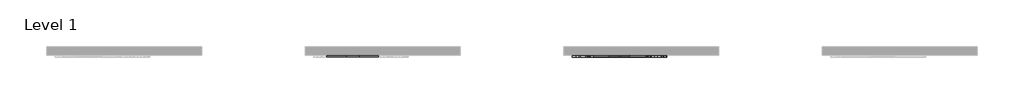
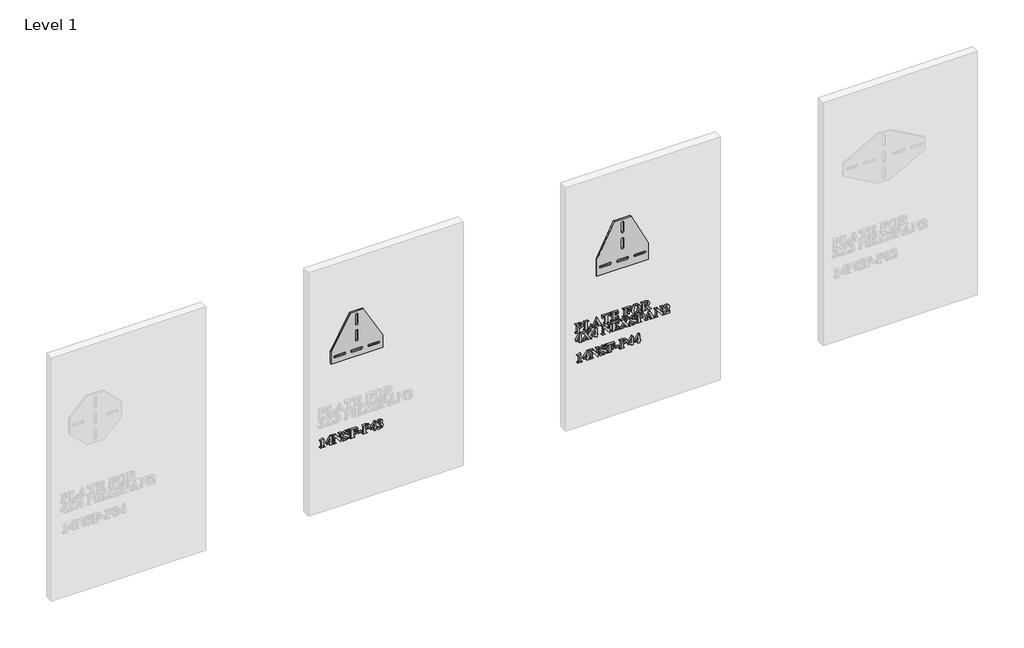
# One storey, part 18 of 21: 5 proxies.
"""IFC4 building model written with IfcOpenShell, lengths in millimetres."""

from ifc_helpers import new_model, si_unit, frame, origin, place, context, project, spatial, polyline, outline, extrude, transform, mapped, element, save
from components import generic_models_60e1e1ff, generic_models_8d3629b8

model = new_model("IFC4")

# Units and contexts
model_context = context("Model", 3, world=origin())
ifc_project = project(units=[si_unit("LENGTHUNIT", "METRE", prefix="MILLI")], contexts=[model_context])

# Site, building, storey
site = spatial("IfcSite", under=ifc_project)
building = spatial("IfcBuilding", under=site)
storey = spatial("IfcBuildingStorey", under=building, Name="Level 1", Elevation=0.0)

# Proxies
placement = place(None, origin())
element("IfcBuildingElementProxy", 1, Name="2\"\" Arial", ObjectType="2\"\" Arial", at=placement, inside=storey, context=model_context, shape_type="SweptSolid", body=[
    extrude(outline(polyline([(463.8692305, 29886.9409375), (455.0050049, 29867.1834097), (453.2321598, 29867.8482267), (454.4648412, 29872.4049926), (453.827725, 29874.4825455), (452.3111114, 29875.7152269), (447.9136245, 29876.0476353), (421.3209478, 29876.0476353), (415.2544934, 29875.5282471), (413.2046413, 29873.5407215), (412.4567222, 29867.1834097), (410.6838771, 29867.1834097), (410.6838771, 29895.5489316), (412.4567222, 29894.3162502), (413.273893, 29889.8425863), (415.3791466, 29888.0074146), (421.3209478, 29887.5711285), (463.8692305, 29886.9409375)])), frame((0.0, -15490.3579358, 0.0), z_axis=(0.0, 1.0, 0.0), x_axis=(0.0, 0.0, 1.0)), (0.0, 0.0, 1.0), 12.7),
    extrude(outline(polyline([(430.1851733, 29904.4131571), (422.2073703, 29904.4131571), (422.2073703, 29923.0280308), (410.6838771, 29923.0280308), (410.6838771, 29934.551524), (422.2073703, 29934.551524), (422.2073703, 29938.9836368), (430.1851733, 29938.9836368), (430.1851733, 29934.551524), (463.8692305, 29934.551524), (463.8692305, 29929.440744), (430.1851733, 29904.4131571)]), holes=[polyline([(430.1851733, 29907.1001255), (451.6116686, 29923.0280308), (430.1851733, 29923.0280308), (430.1851733, 29907.1001255)])]), frame((0.0, -15490.3579358, 0.0), z_axis=(0.0, 1.0, 0.0), x_axis=(0.0, 0.0, 1.0)), (0.0, 0.0, 1.0), 12.7),
    extrude(outline(polyline([(462.9828079, 29961.6151127), (462.9828079, 29943.194144), (461.2099628, 29943.194144), (460.6074725, 29946.8575622), (457.4565173, 29950.50713), (419.5481027, 29950.50713), (414.097989, 29948.9489654), (412.4567222, 29943.4157496), (410.6838771, 29943.4157496), (410.6838771, 29961.1442007), (412.4567222, 29960.0500229), (413.9179344, 29955.8741416), (419.5481027, 29954.0528203), (452.9551528, 29954.0528203), (409.7974546, 29987.8753809), (409.7974546, 29989.5097225), (452.3457373, 29989.5097225), (457.7820006, 29990.1676143), (460.0673087, 29992.002786), (461.2099628, 29996.601103), (462.9828079, 29996.601103), (462.9828079, 29978.8726518), (461.2099628, 29978.8726518), (458.9662057, 29984.7036502), (452.3457373, 29985.9640323), (431.9164674, 29985.9640323), (462.9828079, 29961.6151127)])), frame((0.0, -15490.3579358, 0.0), z_axis=(0.0, 1.0, 0.0), x_axis=(0.0, 0.0, 1.0)), (0.0, 0.0, 1.0), 12.7),
    extrude(outline(polyline([(463.8692305, 30037.3765406), (463.8692305, 30035.6036955), (460.9329558, 30034.4956673), (460.3235403, 30032.8613257), (461.5631468, 30029.100955), (463.259815, 30024.5511142), (463.8692305, 30019.4680349), (459.5409954, 30007.5359562), (449.0493534, 30002.8060609), (442.4427353, 30004.4404025), (437.0064719, 30009.1218216), (431.0992966, 30019.9666475), (427.0549937, 30027.7228449), (423.7863105, 30030.9846029), (420.2267699, 30032.0580052), (414.7905066, 30029.3918124), (412.4567222, 30022.224255), (416.771107, 30011.3725039), (429.2987508, 30004.578906), (429.2987508, 30002.8060609), (409.7974546, 30002.8060609), (409.7974546, 30004.578906), (412.4705726, 30006.4002273), (413.3431448, 30008.5401068), (412.4844229, 30011.6010347), (410.3583938, 30017.1481008), (409.7974546, 30021.8364451), (414.4788737, 30034.8973275), (425.6699585, 30040.0358082), (434.76964, 30037.4180916), (443.218355, 30024.7311688), (447.7058692, 30015.5899362), (451.2654098, 30011.6702864), (454.3263377, 30010.7838639), (459.1254848, 30013.2076756), (461.2099628, 30019.786593), (457.0756326, 30029.8003978), (446.1407794, 30035.6036955), (446.1407794, 30037.3765406), (463.8692305, 30037.3765406)])), frame((0.0, -15490.3579358, 0.0), z_axis=(0.0, 1.0, 0.0), x_axis=(0.0, 0.0, 1.0)), (0.0, 0.0, 1.0), 12.7),
    extrude(outline(polyline([(459.4371177, 30063.9692173), (459.4371177, 30068.40133), (458.8415526, 30076.9608478), (455.1296581, 30083.373561), (447.0272019, 30086.1297812), (447.0272019, 30087.9026263), (462.9828079, 30087.9026263), (462.9828079, 30044.467921), (461.2099628, 30044.467921), (461.2099628, 30046.1438137), (460.5035948, 30049.495599), (458.8484777, 30051.1507161), (454.1185824, 30051.5593015), (419.5481027, 30051.5593015), (414.963636, 30051.1576412), (413.2184916, 30049.6618032), (412.4567222, 30046.1438137), (412.4567222, 30044.467921), (410.6838771, 30044.467921), (410.6838771, 30071.0605977), (412.4567222, 30071.0605977), (412.4567222, 30069.3985554), (413.1630902, 30066.0536953), (414.8182073, 30064.391653), (419.5481027, 30063.9692173), (435.5037087, 30063.9692173), (435.5037087, 30065.7420624), (433.0868222, 30072.6533882), (423.0937929, 30076.379133), (423.0937929, 30078.1519782), (451.4593147, 30078.1519782), (451.4593147, 30076.379133), (444.0770768, 30074.5231858), (440.1989782, 30071.0398222), (439.0493989, 30065.7420624), (439.0493989, 30063.9692173), (459.4371177, 30063.9692173)])), frame((0.0, -15490.3579358, 0.0), z_axis=(0.0, 1.0, 0.0), x_axis=(0.0, 0.0, 1.0)), (0.0, 0.0, 1.0), 12.7),
    extrude(outline(polyline([(30113.6088804, -15490.3579358), (30091.4483165, -15490.3579358), (30091.4483165, -15477.6579358), (30113.6088804, -15477.6579358), (30113.6088804, -15490.3579358)])), frame((0.0, 0.0, 424.866638), z_axis=(0.0, 0.0, 1.0), x_axis=(1.0, 0.0, 0.0)), (0.0, 0.0, 1.0), 7.977803),
    extrude(outline(polyline([(434.6172861, 30137.5422894), (435.5314094, 30150.7970767), (440.427509, 30159.9313842), (449.0632037, 30163.2485436), (459.0077568, 30158.2000901), (462.9828079, 30141.5450413), (462.9828079, 30118.0409932), (461.2099628, 30118.0409932), (460.6074725, 30122.82629), (459.0008316, 30124.6199106), (454.1185824, 30125.1323736), (419.5481027, 30125.1323736), (414.6797038, 30124.6199106), (413.0730629, 30122.8470655), (412.4567222, 30118.0409932), (410.6838771, 30118.0409932), (410.6838771, 30144.6336699), (412.4567222, 30144.6336699), (413.0592126, 30139.8622235), (414.6658534, 30138.0547525), (419.5481027, 30137.5422894), (434.6172861, 30137.5422894)]), holes=[polyline([(460.3235403, 30137.5422894), (460.3235403, 30139.3289849), (457.5673201, 30147.9508293), (448.8831491, 30150.8386278), (440.0466243, 30147.9508293), (437.1934517, 30139.7306451), (437.2765538, 30137.5422894), (460.3235403, 30137.5422894)])]), frame((0.0, -15490.3579358, 0.0), z_axis=(0.0, 1.0, 0.0), x_axis=(0.0, 0.0, 1.0)), (0.0, 0.0, 1.0), 12.7),
    extrude(outline(polyline([(430.1851733, 30166.7942338), (422.2073703, 30166.7942338), (422.2073703, 30185.4091075), (410.6838771, 30185.4091075), (410.6838771, 30196.9326007), (422.2073703, 30196.9326007), (422.2073703, 30201.3647135), (430.1851733, 30201.3647135), (430.1851733, 30196.9326007), (463.8692305, 30196.9326007), (463.8692305, 30191.8218207), (430.1851733, 30166.7942338)]), holes=[polyline([(430.1851733, 30169.4812022), (451.6116686, 30185.4091075), (430.1851733, 30185.4091075), (430.1851733, 30169.4812022)])]), frame((0.0, -15490.3579358, 0.0), z_axis=(0.0, 1.0, 0.0), x_axis=(0.0, 0.0, 1.0)), (0.0, 0.0, 1.0), 12.7),
    extrude(outline(polyline([(439.0493989, 30214.6610518), (432.8790669, 30226.5515794), (423.1214936, 30230.6166578), (417.3805225, 30228.5114043), (415.1159899, 30223.469876), (418.2323192, 30216.2122913), (421.6533562, 30211.7109268), (422.2073703, 30209.245564), (420.7184575, 30206.219262), (417.124291, 30204.9104037), (412.4013208, 30207.1680112), (409.7974546, 30217.1125642), (411.3123369, 30226.2884227), (415.8569837, 30233.4005787), (422.5657482, 30237.9608072), (430.5729832, 30239.4808834), (439.1186507, 30236.6415612), (444.8526966, 30228.4006015), (449.0562786, 30234.7856139), (454.0216299, 30236.8216157), (460.9191054, 30233.1858982), (463.8692305, 30223.9546383), (461.4246433, 30214.0031601), (453.6061193, 30207.5696714), (458.5506952, 30216.9602103), (456.1892101, 30222.9089367), (450.5313411, 30225.2981225), (445.8291464, 30224.0169649), (442.3804087, 30220.9768125), (439.0493989, 30214.6610518)])), frame((0.0, -15490.3579358, 0.0), z_axis=(0.0, 1.0, 0.0), x_axis=(0.0, 0.0, 1.0)), (0.0, 0.0, 1.0), 12.7),
])
element("IfcBuildingElementProxy", 2, Name="2\"\" Arial", ObjectType="2\"\" Arial", at=placement, inside=storey, context=model_context, shape_type="SweptSolid", body=[
    extrude(outline(polyline([(624.2127681, 31400.7890158), (625.1268914, 31414.043803), (630.022991, 31423.1781105), (638.6586857, 31426.4952699), (648.6032388, 31421.4468164), (652.5782899, 31404.7917676), (652.5782899, 31381.2877195), (650.8054448, 31381.2877195), (650.2029545, 31386.0730163), (648.5963136, 31387.8666369), (643.7140644, 31388.3791), (609.1435847, 31388.3791), (604.2751858, 31387.8666369), (602.6685449, 31386.0937918), (602.0522042, 31381.2877195), (600.2793591, 31381.2877195), (600.2793591, 31407.8803962), (602.0522042, 31407.8803962), (602.6546946, 31403.1089498), (604.2613354, 31401.3014788), (609.1435847, 31400.7890158), (624.2127681, 31400.7890158)]), holes=[polyline([(649.9190223, 31400.7890158), (649.9190223, 31402.5757112), (647.1628021, 31411.1975556), (638.4786311, 31414.0853541), (629.6421063, 31411.1975556), (626.7889337, 31402.9773714), (626.8720358, 31400.7890158), (649.9190223, 31400.7890158)])]), frame((0.0, -15490.3579358, 0.0), z_axis=(0.0, 1.0, 0.0), x_axis=(0.0, 0.0, 1.0)), (0.0, 0.0, 1.0), 12.7),
    extrude(outline(polyline([(619.7806553, 31477.9077782), (619.7806553, 31476.1349331), (610.1269597, 31472.3399365), (605.3416629, 31467.5892656), (603.8250493, 31460.7194908), (603.8250493, 31456.4120312), (604.1713081, 31451.7998638), (605.7848742, 31449.999318), (610.8333277, 31449.5422564), (643.7140644, 31449.5422564), (648.298531, 31449.9162159), (650.0436754, 31451.3289518), (650.8054448, 31454.597635), (650.8054448, 31456.6336368), (652.5782899, 31456.6336368), (652.5782899, 31430.0409601), (650.8054448, 31430.0409601), (650.8054448, 31431.7168528), (650.0990768, 31435.0686381), (648.4439597, 31436.7237552), (643.7140644, 31437.1323406), (609.1435847, 31437.1323406), (604.559118, 31436.7306804), (602.8139736, 31435.2348423), (602.0522042, 31431.7168528), (602.0522042, 31430.0409601), (600.2793591, 31430.0409601), (600.2793591, 31476.1349331), (619.7806553, 31477.9077782)])), frame((0.0, -15490.3579358, 0.0), z_axis=(0.0, 1.0, 0.0), x_axis=(0.0, 0.0, 1.0)), (0.0, 0.0, 1.0), 12.7),
    extrude(outline(polyline([(615.3485426, 31512.8660677), (608.7003734, 31515.7884921), (604.559118, 31517.1735273), (602.869375, 31516.3286558), (602.0522042, 31511.0101205), (600.2793591, 31511.0101205), (600.2793591, 31536.4116669), (602.0522042, 31536.4116669), (603.4095388, 31532.7136228), (610.9025794, 31528.28151), (653.4647125, 31508.6278599), (612.066009, 31489.8052309), (604.3375124, 31485.3384922), (602.0522042, 31480.7193997), (600.2793591, 31480.7193997), (600.2793591, 31498.4894019), (602.0522042, 31498.4894019), (602.9386268, 31493.3647715), (606.0272554, 31491.5919264), (610.0300072, 31492.6722539), (615.3485426, 31495.0822152), (615.3485426, 31512.8660677)]), holes=[polyline([(618.8942328, 31511.3148283), (618.8942328, 31496.6888561), (635.2376487, 31504.0987946), (618.8942328, 31511.3148283)])]), frame((0.0, -15490.3579358, 0.0), z_axis=(0.0, 1.0, 0.0), x_axis=(0.0, 0.0, 1.0)), (0.0, 0.0, 1.0), 12.7),
    extrude(outline(polyline([(652.5782899, 31586.05133), (652.5782899, 31539.9573571), (637.5091065, 31539.9573571), (637.5091065, 31541.7302022), (646.7195908, 31545.8299065), (649.0325997, 31553.2536955), (649.0325997, 31556.7993857), (609.1435847, 31556.7993857), (604.559118, 31556.3977255), (602.8139736, 31554.8741867), (602.0522042, 31551.3700475), (602.0522042, 31549.7080052), (600.2793591, 31549.7080052), (600.2793591, 31576.3006819), (602.0522042, 31576.3006819), (602.0522042, 31574.65249), (602.7585722, 31571.2868543), (604.4136893, 31569.6317372), (609.1435847, 31569.2093015), (649.0325997, 31569.2093015), (649.0325997, 31572.7549917), (648.3123814, 31577.6857172), (644.7874667, 31581.646918), (637.5091065, 31584.2784849), (637.5091065, 31586.05133), (652.5782899, 31586.05133)])), frame((0.0, -15490.3579358, 0.0), z_axis=(0.0, 1.0, 0.0), x_axis=(0.0, 0.0, 1.0)), (0.0, 0.0, 1.0), 12.7),
    extrude(outline(polyline([(649.0325997, 31610.8711616), (649.0325997, 31615.3032744), (648.3400821, 31623.3364788), (644.7320653, 31629.0289737), (636.6226839, 31632.145303), (636.6226839, 31633.9181481), (652.5782899, 31633.9181481), (652.5782899, 31591.3698654), (650.8054448, 31591.3698654), (650.8054448, 31593.045758), (649.7805187, 31596.896156), (647.827619, 31598.2811912), (643.7140644, 31598.4612458), (609.1435847, 31598.4612458), (604.559118, 31598.0595856), (602.8139736, 31596.5637475), (602.0522042, 31593.045758), (602.0522042, 31591.3698654), (600.2793591, 31591.3698654), (600.2793591, 31635.1785302), (616.8859317, 31636.1203541), (606.4427659, 31630.0054235), (602.9386268, 31618.6827604), (602.9386268, 31615.6633836), (603.5549675, 31612.5470543), (605.1339076, 31611.2243456), (610.4039667, 31610.8711616), (625.0991907, 31610.8711616), (624.0950401, 31615.878064), (620.1753904, 31618.9112912), (612.6892749, 31620.6218097), (612.6892749, 31622.3946548), (640.1683741, 31622.3946548), (640.1683741, 31620.6218097), (630.9024884, 31618.1148959), (627.7584584, 31610.8711616), (649.0325997, 31610.8711616)])), frame((0.0, -15490.3579358, 0.0), z_axis=(0.0, 1.0, 0.0), x_axis=(0.0, 0.0, 1.0)), (0.0, 0.0, 1.0), 12.7),
    extrude(outline(polyline([(649.0325997, 31682.6713887), (649.0325997, 31687.1035015), (648.4370346, 31695.6630193), (644.7251401, 31702.0757325), (636.6226839, 31704.8319526), (636.6226839, 31706.6047977), (652.5782899, 31706.6047977), (652.5782899, 31663.1700924), (650.8054448, 31663.1700924), (650.8054448, 31664.8459851), (650.0990768, 31668.1977704), (648.4439597, 31669.8528875), (643.7140644, 31670.2614729), (609.1435847, 31670.2614729), (604.559118, 31669.8598127), (602.8139736, 31668.3639746), (602.0522042, 31664.8459851), (602.0522042, 31663.1700924), (600.2793591, 31663.1700924), (600.2793591, 31689.7627691), (602.0522042, 31689.7627691), (602.0522042, 31688.1007268), (602.7585722, 31684.7558667), (604.4136893, 31683.0938244), (609.1435847, 31682.6713887), (625.0991907, 31682.6713887), (625.0991907, 31684.4442338), (622.6823042, 31691.3555597), (612.6892749, 31695.0813045), (612.6892749, 31696.8541496), (641.0547967, 31696.8541496), (641.0547967, 31695.0813045), (633.6725588, 31693.2253572), (629.7944602, 31689.7419936), (628.6448809, 31684.4442338), (628.6448809, 31682.6713887), (649.0325997, 31682.6713887)])), frame((0.0, -15490.3579358, 0.0), z_axis=(0.0, 1.0, 0.0), x_axis=(0.0, 0.0, 1.0)), (0.0, 0.0, 1.0), 12.7),
    extrude(outline(polyline([(653.4647125, 31739.0561735), (651.8788471, 31728.514324), (646.1794271, 31719.7695577), (637.4606302, 31713.8848892), (626.8166344, 31711.923333), (617.1733265, 31713.4295589), (608.9358294, 31717.9482364), (601.7786598, 31727.1656459), (599.3929366, 31739.5547862), (601.8929252, 31751.9127631), (609.392891, 31761.1197849), (626.8581854, 31766.8815315), (637.4969874, 31764.9494074), (646.2002026, 31759.1530349), (651.884041, 31750.2645712), (653.4647125, 31739.0561735)]), holes=[polyline([(650.8054448, 31739.5132351), (648.6863409, 31746.1267784), (641.4356814, 31750.8497486), (625.9440622, 31752.6987706), (611.8444034, 31750.8843745), (603.9774032, 31745.8151455), (602.0522042, 31739.4439833), (606.5120177, 31730.6213088), (626.2487699, 31726.1060939), (643.4924587, 31729.0285183), (648.9771983, 31733.4502433), (650.8054448, 31739.5132351)])]), frame((0.0, -15490.3579358, 0.0), z_axis=(0.0, 1.0, 0.0), x_axis=(0.0, 0.0, 1.0)), (0.0, 0.0, 1.0), 12.7),
    extrude(outline(polyline([(624.2127681, 31790.8149406), (624.2127681, 31794.249828), (600.2793591, 31811.0364551), (600.2793591, 31827.1582654), (602.0522042, 31827.1582654), (603.3956884, 31823.8895822), (607.7723998, 31820.7455522), (625.4592998, 31808.3356364), (628.9911397, 31815.2885133), (638.395529, 31819.1804624), (646.5326111, 31816.417317), (651.2902072, 31809.2843855), (652.5782899, 31795.4825093), (652.5782899, 31771.3136443), (650.8054448, 31771.3136443), (650.2029545, 31776.0989411), (648.5963136, 31777.8925617), (643.7140644, 31778.4050248), (609.1435847, 31778.4050248), (604.2751858, 31777.8925617), (602.6685449, 31776.1197166), (602.0522042, 31771.3136443), (600.2793591, 31771.3136443), (600.2793591, 31797.906321), (602.0522042, 31797.906321), (602.6546946, 31793.1210242), (604.2613354, 31791.3274036), (609.1435847, 31790.8149406), (624.2127681, 31790.8149406)]), holes=[polyline([(649.9190223, 31790.8149406), (649.9190223, 31794.9423456), (647.0450741, 31803.9727754), (638.160073, 31806.7705466), (631.4288018, 31805.2470078), (627.862336, 31801.0572762), (626.8720358, 31793.0171466), (626.8720358, 31790.8149406), (649.9190223, 31790.8149406)])]), frame((0.0, -15490.3579358, 0.0), z_axis=(0.0, 1.0, 0.0), x_axis=(0.0, 0.0, 1.0)), (0.0, 0.0, 1.0), 12.7),
    extrude(outline(polyline([(555.684317, 31382.1741421), (547.706514, 31382.1741421), (547.706514, 31400.7890158), (536.1830208, 31400.7890158), (536.1830208, 31412.312509), (547.706514, 31412.312509), (547.706514, 31416.7446218), (555.684317, 31416.7446218), (555.684317, 31412.312509), (589.3683741, 31412.312509), (589.3683741, 31407.2017289), (555.684317, 31382.1741421)]), holes=[polyline([(555.684317, 31384.8611105), (577.1108122, 31400.7890158), (555.684317, 31400.7890158), (555.684317, 31384.8611105)])]), frame((0.0, -15490.3579358, 0.0), z_axis=(0.0, 1.0, 0.0), x_axis=(0.0, 0.0, 1.0)), (0.0, 0.0, 1.0), 12.7),
    extrude(outline(polyline([(566.5845444, 31452.5062318), (578.4681468, 31461.9937232), (584.2021927, 31467.0075508), (586.1481672, 31469.9715262), (586.7091065, 31473.6280193), (588.4819516, 31473.6280193), (588.4819516, 31454.1959748), (586.7091065, 31454.1959748), (586.2243441, 31457.6585629), (584.88086, 31459.3760066), (583.0110624, 31459.9715718), (575.9473826, 31455.7333639), (569.5069687, 31450.5810328), (579.146814, 31444.2514217), (584.3406962, 31441.3289974), (586.0304392, 31442.2154199), (586.7091065, 31446.6336823), (588.4819516, 31446.6336823), (588.4819516, 31421.0936324), (586.7091065, 31421.0936324), (585.9334867, 31423.8637029), (584.2021927, 31425.8997047), (579.0775623, 31429.6392999), (559.4377625, 31442.5478284), (546.8616425, 31432.4786222), (539.7425613, 31425.2764389), (537.9558659, 31419.8886518), (536.1830208, 31419.8886518), (536.1830208, 31440.2348195), (537.9558659, 31440.2348195), (538.1774715, 31436.9245853), (539.4655543, 31434.1891407), (541.4046036, 31433.2680922), (547.000146, 31436.8414832), (556.5291885, 31444.459177), (545.781315, 31451.5228568), (540.4627797, 31454.4868322), (538.8422884, 31453.6004096), (537.9558659, 31449.6807599), (536.1830208, 31449.6807599), (536.1830208, 31474.9715034), (537.9558659, 31474.9715034), (539.2993501, 31471.3704118), (545.6428115, 31466.2596318), (566.5845444, 31452.5062318)])), frame((0.0, -15490.3579358, 0.0), z_axis=(0.0, 1.0, 0.0), x_axis=(0.0, 0.0, 1.0)), (0.0, 0.0, 1.0), 12.7),
    extrude(outline(polyline([(555.684317, 31477.9077782), (547.706514, 31477.9077782), (547.706514, 31496.5226518), (536.1830208, 31496.5226518), (536.1830208, 31508.0461451), (547.706514, 31508.0461451), (547.706514, 31512.4782579), (555.684317, 31512.4782579), (555.684317, 31508.0461451), (589.3683741, 31508.0461451), (589.3683741, 31502.935365), (555.684317, 31477.9077782)]), holes=[polyline([(555.684317, 31480.5947465), (577.1108122, 31496.5226518), (555.684317, 31496.5226518), (555.684317, 31480.5947465)])]), frame((0.0, -15490.3579358, 0.0), z_axis=(0.0, 1.0, 0.0), x_axis=(0.0, 0.0, 1.0)), (0.0, 0.0, 1.0), 12.7),
    extrude(outline(polyline([(588.4819516, 31554.61103), (588.4819516, 31536.1900612), (586.7091065, 31536.1900612), (586.1066161, 31539.8534795), (582.955661, 31543.5030473), (545.0472463, 31543.5030473), (539.5971326, 31541.9448827), (537.9558659, 31536.4116669), (536.1830208, 31536.4116669), (536.1830208, 31554.140118), (537.9558659, 31553.0459402), (539.4170781, 31548.8700589), (545.0472463, 31547.0487376), (578.4542964, 31547.0487376), (535.2965982, 31580.8712982), (535.2965982, 31582.5056398), (577.8448809, 31582.5056398), (583.2811442, 31583.1635316), (585.5664524, 31584.9987033), (586.7091065, 31589.5970203), (588.4819516, 31589.5970203), (588.4819516, 31571.8685691), (586.7091065, 31571.8685691), (584.4653494, 31577.6995675), (577.8448809, 31578.9599496), (557.4156111, 31578.9599496), (588.4819516, 31554.61103)])), frame((0.0, -15490.3579358, 0.0), z_axis=(0.0, 1.0, 0.0), x_axis=(0.0, 0.0, 1.0)), (0.0, 0.0, 1.0), 12.7),
    extrude(outline(polyline([(584.9362614, 31613.5304293), (584.9362614, 31617.9625421), (584.2437437, 31625.9957465), (580.6357269, 31631.6882413), (572.5263456, 31634.8045706), (572.5263456, 31636.5774157), (588.4819516, 31636.5774157), (588.4819516, 31594.029133), (586.7091065, 31594.029133), (586.7091065, 31595.7050257), (585.6841804, 31599.5554237), (583.7312807, 31600.9404589), (579.617726, 31601.1205135), (545.0472463, 31601.1205135), (540.4627797, 31600.7188533), (538.7176353, 31599.2230152), (537.9558659, 31595.7050257), (537.9558659, 31594.029133), (536.1830208, 31594.029133), (536.1830208, 31637.8377978), (552.7895933, 31638.7796218), (542.3464276, 31632.6646912), (538.8422884, 31621.3420281), (538.8422884, 31618.3226512), (539.4586291, 31615.2063219), (541.0375693, 31613.8836133), (546.3076284, 31613.5304293), (561.0028523, 31613.5304293), (559.9987018, 31618.5373317), (556.079052, 31621.5705589), (548.5929366, 31623.2810774), (548.5929366, 31625.0539225), (576.0720358, 31625.0539225), (576.0720358, 31623.2810774), (566.80615, 31620.7741636), (563.66212, 31613.5304293), (584.9362614, 31613.5304293)])), frame((0.0, -15490.3579358, 0.0), z_axis=(0.0, 1.0, 0.0), x_axis=(0.0, 0.0, 1.0)), (0.0, 0.0, 1.0), 12.7),
    extrude(outline(polyline([(566.5845444, 31676.7711385), (578.4681468, 31686.25863), (584.2021927, 31691.2724575), (586.1481672, 31694.236433), (586.7091065, 31697.892926), (588.4819516, 31697.892926), (588.4819516, 31678.4608815), (586.7091065, 31678.4608815), (586.2243441, 31681.9234696), (584.88086, 31683.6409134), (583.0110624, 31684.2364785), (575.9473826, 31679.9982707), (569.5069687, 31674.8459395), (579.146814, 31668.5163285), (584.3406962, 31665.5939041), (586.0304392, 31666.4803267), (586.7091065, 31670.8985891), (588.4819516, 31670.8985891), (588.4819516, 31645.3585392), (586.7091065, 31645.3585392), (585.9334867, 31648.1286097), (584.2021927, 31650.1646115), (579.0775623, 31653.9042067), (559.4377625, 31666.8127351), (546.8616425, 31656.7435289), (539.7425613, 31649.5413456), (537.9558659, 31644.1535585), (536.1830208, 31644.1535585), (536.1830208, 31664.4997263), (537.9558659, 31664.4997263), (538.1774715, 31661.189492), (539.4655543, 31658.4540474), (541.4046036, 31657.532999), (547.000146, 31661.1063899), (556.5291885, 31668.7240838), (545.781315, 31675.7877635), (540.4627797, 31678.7517389), (538.8422884, 31677.8653164), (537.9558659, 31673.9456666), (536.1830208, 31673.9456666), (536.1830208, 31699.2364102), (537.9558659, 31699.2364102), (539.2993501, 31695.6353186), (545.6428115, 31690.5245385), (566.5845444, 31676.7711385)])), frame((0.0, -15490.3579358, 0.0), z_axis=(0.0, 1.0, 0.0), x_axis=(0.0, 0.0, 1.0)), (0.0, 0.0, 1.0), 12.7),
    extrude(outline(polyline([(589.3683741, 31738.5160097), (589.3683741, 31736.7431646), (586.4320994, 31735.6351364), (585.8226839, 31734.0007948), (587.0622905, 31730.2404241), (588.7589586, 31725.6905834), (589.3683741, 31720.607504), (585.040139, 31708.6754254), (574.548497, 31703.94553), (567.9418789, 31705.5798716), (562.5056156, 31710.2612907), (556.5984403, 31721.1061167), (552.5541373, 31728.8623141), (549.2854542, 31732.1240721), (545.7259136, 31733.1974744), (540.2896503, 31730.5312815), (537.9558659, 31723.3637242), (542.2702507, 31712.511973), (554.7978944, 31705.7183751), (554.7978944, 31703.94553), (535.2965982, 31703.94553), (535.2965982, 31705.7183751), (537.9697162, 31707.5396965), (538.8422884, 31709.6795759), (537.9835666, 31712.7405038), (535.8575375, 31718.28757), (535.2965982, 31722.9759143), (539.9780173, 31736.0367966), (551.1691021, 31741.1752774), (560.2687837, 31738.5575608), (568.7174987, 31725.8706379), (573.2050128, 31716.7294053), (576.7645534, 31712.8097556), (579.8254813, 31711.923333), (584.6246284, 31714.3471447), (586.7091065, 31720.9260621), (582.5747763, 31730.9398669), (571.639923, 31736.7431646), (571.639923, 31738.5160097), (589.3683741, 31738.5160097)])), frame((0.0, -15490.3579358, 0.0), z_axis=(0.0, 1.0, 0.0), x_axis=(0.0, 0.0, 1.0)), (0.0, 0.0, 1.0), 12.7),
    extrude(outline(polyline([(560.1164298, 31764.2222639), (561.030553, 31777.4770512), (565.9266526, 31786.6113586), (574.5623474, 31789.928518), (584.5069004, 31784.8800645), (588.4819516, 31768.2250157), (588.4819516, 31744.7209676), (586.7091065, 31744.7209676), (586.1066161, 31749.5062644), (584.4999753, 31751.299885), (579.617726, 31751.8123481), (545.0472463, 31751.8123481), (540.1788474, 31751.299885), (538.5722066, 31749.5270399), (537.9558659, 31744.7209676), (536.1830208, 31744.7209676), (536.1830208, 31771.3136443), (537.9558659, 31771.3136443), (538.5583562, 31766.5421979), (540.1649971, 31764.7347269), (545.0472463, 31764.2222639), (560.1164298, 31764.2222639)]), holes=[polyline([(585.8226839, 31764.2222639), (585.8226839, 31766.0089593), (583.0664638, 31774.6308037), (574.3822928, 31777.5186022), (565.5457679, 31774.6308037), (562.6925953, 31766.4106195), (562.7756975, 31764.2222639), (585.8226839, 31764.2222639)])]), frame((0.0, -15490.3579358, 0.0), z_axis=(0.0, 1.0, 0.0), x_axis=(0.0, 0.0, 1.0)), (0.0, 0.0, 1.0), 12.7),
    extrude(outline(polyline([(551.2522042, 31824.000385), (544.604035, 31826.9228094), (540.4627797, 31828.3078446), (538.7730367, 31827.4629731), (537.9558659, 31822.1444378), (536.1830208, 31822.1444378), (536.1830208, 31847.5459842), (537.9558659, 31847.5459842), (539.3132004, 31843.8479401), (546.8062411, 31839.4158273), (589.3683741, 31819.7621772), (547.9696707, 31800.9395482), (540.241174, 31796.4728095), (537.9558659, 31791.853717), (536.1830208, 31791.853717), (536.1830208, 31809.6237192), (537.9558659, 31809.6237192), (538.8422884, 31804.4990888), (541.930917, 31802.7262437), (545.9336689, 31803.8065711), (551.2522042, 31806.2165325), (551.2522042, 31824.000385)]), holes=[polyline([(554.7978944, 31822.4491455), (554.7978944, 31807.8231734), (571.1413103, 31815.2331119), (554.7978944, 31822.4491455)])]), frame((0.0, -15490.3579358, 0.0), z_axis=(0.0, 1.0, 0.0), x_axis=(0.0, 0.0, 1.0)), (0.0, 0.0, 1.0), 12.7),
    extrude(outline(polyline([(588.4819516, 31867.5181924), (588.4819516, 31849.0972236), (586.7091065, 31849.0972236), (586.1066161, 31852.7606419), (582.955661, 31856.4102097), (545.0472463, 31856.4102097), (539.5971326, 31854.8520451), (537.9558659, 31849.3188293), (536.1830208, 31849.3188293), (536.1830208, 31867.0472804), (537.9558659, 31865.9531026), (539.4170781, 31861.7772213), (545.0472463, 31859.9558999), (578.4542964, 31859.9558999), (535.2965982, 31893.7784606), (535.2965982, 31895.4128022), (577.8448809, 31895.4128022), (583.2811442, 31896.0706939), (585.5664524, 31897.9058656), (586.7091065, 31902.5041827), (588.4819516, 31902.5041827), (588.4819516, 31884.7757315), (586.7091065, 31884.7757315), (584.4653494, 31890.6067299), (577.8448809, 31891.867112), (557.4156111, 31891.867112), (588.4819516, 31867.5181924)])), frame((0.0, -15490.3579358, 0.0), z_axis=(0.0, 1.0, 0.0), x_axis=(0.0, 0.0, 1.0)), (0.0, 0.0, 1.0), 12.7),
    extrude(outline(polyline([(536.1830208, 31936.5899), (551.2522042, 31938.2103913), (548.1635756, 31936.1120629), (547.1247992, 31934.076061), (546.8200914, 31928.7228998), (546.8200914, 31917.5595158), (566.3906394, 31934.2768912), (576.6260499, 31937.0746624), (582.5609259, 31935.1840892), (587.5470528, 31929.9555812), (589.3683741, 31922.5733433), (585.864235, 31912.5803141), (574.548497, 31907.5595613), (579.0152357, 31911.7285174), (580.5041486, 31917.3102094), (577.8241054, 31923.7852492), (571.0997593, 31926.4375917), (559.7286199, 31923.3351127), (536.1830208, 31905.1634503), (536.1830208, 31936.5899)])), frame((0.0, -15490.3579358, 0.0), z_axis=(0.0, 1.0, 0.0), x_axis=(0.0, 0.0, 1.0)), (0.0, 0.0, 1.0), 12.7),
])
element("IfcBuildingElementProxy", 3, Name="2\"\" Arial", ObjectType="2\"\" Arial", at=placement, inside=storey, context=model_context, shape_type="SweptSolid", body=[
    extrude(outline(polyline([(463.8692305, 31410.9409375), (455.0050049, 31391.1834097), (453.2321598, 31391.8482267), (454.4648412, 31396.4049926), (453.827725, 31398.4825455), (452.3111114, 31399.7152269), (447.9136245, 31400.0476353), (421.3209478, 31400.0476353), (415.2544934, 31399.5282471), (413.2046413, 31397.5407215), (412.4567222, 31391.1834097), (410.6838771, 31391.1834097), (410.6838771, 31419.5489316), (412.4567222, 31418.3162502), (413.273893, 31413.8425863), (415.3791466, 31412.0074146), (421.3209478, 31411.5711285), (463.8692305, 31410.9409375)])), frame((0.0, -15490.3579358, 0.0), z_axis=(0.0, 1.0, 0.0), x_axis=(0.0, 0.0, 1.0)), (0.0, 0.0, 1.0), 12.7),
    extrude(outline(polyline([(430.1851733, 31428.4131571), (422.2073703, 31428.4131571), (422.2073703, 31447.0280308), (410.6838771, 31447.0280308), (410.6838771, 31458.551524), (422.2073703, 31458.551524), (422.2073703, 31462.9836368), (430.1851733, 31462.9836368), (430.1851733, 31458.551524), (463.8692305, 31458.551524), (463.8692305, 31453.440744), (430.1851733, 31428.4131571)]), holes=[polyline([(430.1851733, 31431.1001255), (451.6116686, 31447.0280308), (430.1851733, 31447.0280308), (430.1851733, 31431.1001255)])]), frame((0.0, -15490.3579358, 0.0), z_axis=(0.0, 1.0, 0.0), x_axis=(0.0, 0.0, 1.0)), (0.0, 0.0, 1.0), 12.7),
    extrude(outline(polyline([(462.9828079, 31485.6151127), (462.9828079, 31467.194144), (461.2099628, 31467.194144), (460.6074725, 31470.8575622), (457.4565173, 31474.50713), (419.5481027, 31474.50713), (414.097989, 31472.9489654), (412.4567222, 31467.4157496), (410.6838771, 31467.4157496), (410.6838771, 31485.1442007), (412.4567222, 31484.0500229), (413.9179344, 31479.8741416), (419.5481027, 31478.0528203), (452.9551528, 31478.0528203), (409.7974546, 31511.8753809), (409.7974546, 31513.5097225), (452.3457373, 31513.5097225), (457.7820006, 31514.1676143), (460.0673087, 31516.002786), (461.2099628, 31520.601103), (462.9828079, 31520.601103), (462.9828079, 31502.8726518), (461.2099628, 31502.8726518), (458.9662057, 31508.7036502), (452.3457373, 31509.9640323), (431.9164674, 31509.9640323), (462.9828079, 31485.6151127)])), frame((0.0, -15490.3579358, 0.0), z_axis=(0.0, 1.0, 0.0), x_axis=(0.0, 0.0, 1.0)), (0.0, 0.0, 1.0), 12.7),
    extrude(outline(polyline([(463.8692305, 31561.3765406), (463.8692305, 31559.6036955), (460.9329558, 31558.4956673), (460.3235403, 31556.8613257), (461.5631468, 31553.100955), (463.259815, 31548.5511142), (463.8692305, 31543.4680349), (459.5409954, 31531.5359562), (449.0493534, 31526.8060609), (442.4427353, 31528.4404025), (437.0064719, 31533.1218216), (431.0992966, 31543.9666475), (427.0549937, 31551.7228449), (423.7863105, 31554.9846029), (420.2267699, 31556.0580052), (414.7905066, 31553.3918124), (412.4567222, 31546.224255), (416.771107, 31535.3725039), (429.2987508, 31528.578906), (429.2987508, 31526.8060609), (409.7974546, 31526.8060609), (409.7974546, 31528.578906), (412.4705726, 31530.4002273), (413.3431448, 31532.5401068), (412.4844229, 31535.6010347), (410.3583938, 31541.1481008), (409.7974546, 31545.8364451), (414.4788737, 31558.8973275), (425.6699585, 31564.0358082), (434.76964, 31561.4180916), (443.218355, 31548.7311688), (447.7058692, 31539.5899362), (451.2654098, 31535.6702864), (454.3263377, 31534.7838639), (459.1254848, 31537.2076756), (461.2099628, 31543.786593), (457.0756326, 31553.8003978), (446.1407794, 31559.6036955), (446.1407794, 31561.3765406), (463.8692305, 31561.3765406)])), frame((0.0, -15490.3579358, 0.0), z_axis=(0.0, 1.0, 0.0), x_axis=(0.0, 0.0, 1.0)), (0.0, 0.0, 1.0), 12.7),
    extrude(outline(polyline([(459.4371177, 31587.9692173), (459.4371177, 31592.40133), (458.8415526, 31600.9608478), (455.1296581, 31607.373561), (447.0272019, 31610.1297812), (447.0272019, 31611.9026263), (462.9828079, 31611.9026263), (462.9828079, 31568.467921), (461.2099628, 31568.467921), (461.2099628, 31570.1438137), (460.5035948, 31573.495599), (458.8484777, 31575.1507161), (454.1185824, 31575.5593015), (419.5481027, 31575.5593015), (414.963636, 31575.1576412), (413.2184916, 31573.6618032), (412.4567222, 31570.1438137), (412.4567222, 31568.467921), (410.6838771, 31568.467921), (410.6838771, 31595.0605977), (412.4567222, 31595.0605977), (412.4567222, 31593.3985554), (413.1630902, 31590.0536953), (414.8182073, 31588.391653), (419.5481027, 31587.9692173), (435.5037087, 31587.9692173), (435.5037087, 31589.7420624), (433.0868222, 31596.6533882), (423.0937929, 31600.379133), (423.0937929, 31602.1519782), (451.4593147, 31602.1519782), (451.4593147, 31600.379133), (444.0770768, 31598.5231858), (440.1989782, 31595.0398222), (439.0493989, 31589.7420624), (439.0493989, 31587.9692173), (459.4371177, 31587.9692173)])), frame((0.0, -15490.3579358, 0.0), z_axis=(0.0, 1.0, 0.0), x_axis=(0.0, 0.0, 1.0)), (0.0, 0.0, 1.0), 12.7),
    extrude(outline(polyline([(31637.6088804, -15490.3579358), (31615.4483165, -15490.3579358), (31615.4483165, -15477.6579358), (31637.6088804, -15477.6579358), (31637.6088804, -15490.3579358)])), frame((0.0, 0.0, 424.866638), z_axis=(0.0, 0.0, 1.0), x_axis=(1.0, 0.0, 0.0)), (0.0, 0.0, 1.0), 7.977803),
    extrude(outline(polyline([(434.6172861, 31661.5422894), (435.5314094, 31674.7970767), (440.427509, 31683.9313842), (449.0632037, 31687.2485436), (459.0077568, 31682.2000901), (462.9828079, 31665.5450413), (462.9828079, 31642.0409932), (461.2099628, 31642.0409932), (460.6074725, 31646.82629), (459.0008316, 31648.6199106), (454.1185824, 31649.1323736), (419.5481027, 31649.1323736), (414.6797038, 31648.6199106), (413.0730629, 31646.8470655), (412.4567222, 31642.0409932), (410.6838771, 31642.0409932), (410.6838771, 31668.6336699), (412.4567222, 31668.6336699), (413.0592126, 31663.8622235), (414.6658534, 31662.0547525), (419.5481027, 31661.5422894), (434.6172861, 31661.5422894)]), holes=[polyline([(460.3235403, 31661.5422894), (460.3235403, 31663.3289849), (457.5673201, 31671.9508293), (448.8831491, 31674.8386278), (440.0466243, 31671.9508293), (437.1934517, 31663.7306451), (437.2765538, 31661.5422894), (460.3235403, 31661.5422894)])]), frame((0.0, -15490.3579358, 0.0), z_axis=(0.0, 1.0, 0.0), x_axis=(0.0, 0.0, 1.0)), (0.0, 0.0, 1.0), 12.7),
    extrude(outline(polyline([(430.1851733, 31690.7942338), (422.2073703, 31690.7942338), (422.2073703, 31709.4091075), (410.6838771, 31709.4091075), (410.6838771, 31720.9326007), (422.2073703, 31720.9326007), (422.2073703, 31725.3647135), (430.1851733, 31725.3647135), (430.1851733, 31720.9326007), (463.8692305, 31720.9326007), (463.8692305, 31715.8218207), (430.1851733, 31690.7942338)]), holes=[polyline([(430.1851733, 31693.4812022), (451.6116686, 31709.4091075), (430.1851733, 31709.4091075), (430.1851733, 31693.4812022)])]), frame((0.0, -15490.3579358, 0.0), z_axis=(0.0, 1.0, 0.0), x_axis=(0.0, 0.0, 1.0)), (0.0, 0.0, 1.0), 12.7),
    extrude(outline(polyline([(430.1851733, 31730.6832488), (422.2073703, 31730.6832488), (422.2073703, 31749.2981225), (410.6838771, 31749.2981225), (410.6838771, 31760.8216157), (422.2073703, 31760.8216157), (422.2073703, 31765.2537285), (430.1851733, 31765.2537285), (430.1851733, 31760.8216157), (463.8692305, 31760.8216157), (463.8692305, 31755.7108357), (430.1851733, 31730.6832488)]), holes=[polyline([(430.1851733, 31733.3702172), (451.6116686, 31749.2981225), (430.1851733, 31749.2981225), (430.1851733, 31733.3702172)])]), frame((0.0, -15490.3579358, 0.0), z_axis=(0.0, 1.0, 0.0), x_axis=(0.0, 0.0, 1.0)), (0.0, 0.0, 1.0), 12.7),
])
generic_models_shape = generic_models_60e1e1ff(model_context)
element("IfcBuildingElementProxy", 4, Name="14NSF-P43 : 14NSF-P43", ObjectType="14NSF-P43 : 14NSF-P43", at=placement, inside=storey, context=model_context, shape_type="MappedRepresentation", body=[
    mapped(generic_models_shape, transform((30085.1187481, -15477.6579358, 914.4), x_axis=(1.0, 0.0, 0.0), y_axis=(0.0, 0.0, 1.0), z_axis=(0.0, -1.0, 0.0))),
])
generic_models_2_shape = generic_models_8d3629b8(model_context)
element("IfcBuildingElementProxy", 5, Name="14NSF-P44 : 14NSF-P44", ObjectType="14NSF-P44 : 14NSF-P44", at=placement, inside=storey, context=model_context, shape_type="MappedRepresentation", body=[
    mapped(generic_models_2_shape, transform((31659.9187481, -15477.6579358, 914.4), x_axis=(1.0, 0.0, 0.0), y_axis=(0.0, 0.0, 1.0), z_axis=(0.0, -1.0, 0.0))),
])

save(model, "model.ifc")
